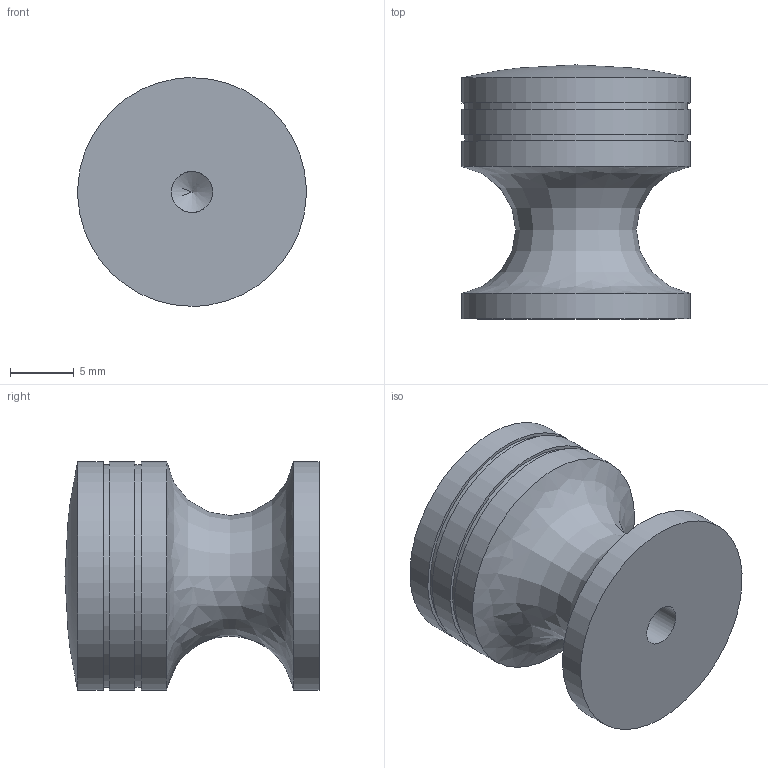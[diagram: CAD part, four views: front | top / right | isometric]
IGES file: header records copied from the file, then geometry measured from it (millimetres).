
Global section: file name: DR_A-C2-18; native system: Autodesk Inventor 2015; preprocessor: unknown; author: Administrator; date: 20170707.103519; units: millimetre
Bounding box: 17.97 x 20 x 18 mm (x, y, z)
Volume: 3425.7 mm3; surface area: 1720.8 mm2
Topology: 1 solids, 1 shells, 15 faces, 38 edges, 29 vertices
Faces by surface type: bspline 15
